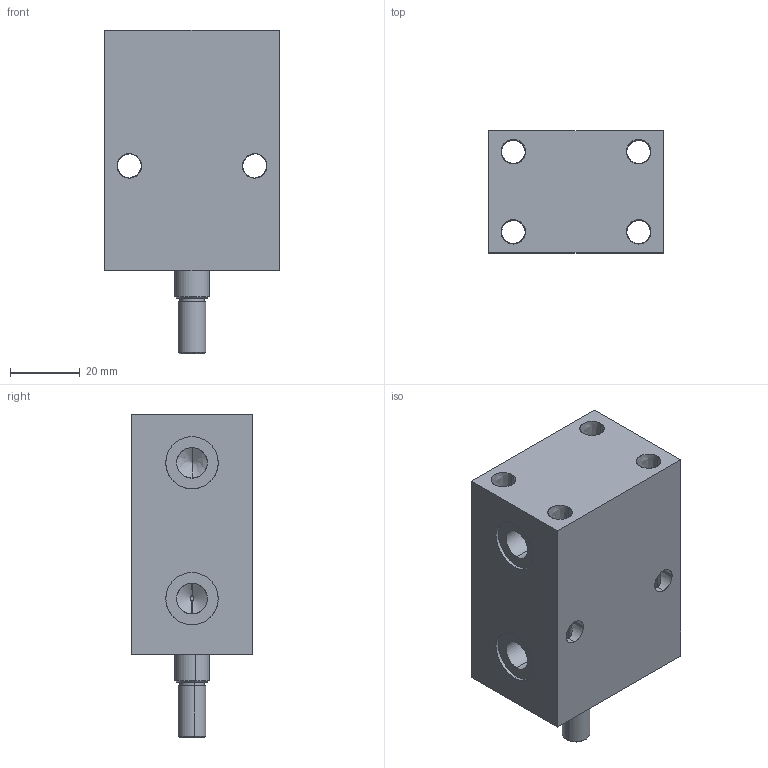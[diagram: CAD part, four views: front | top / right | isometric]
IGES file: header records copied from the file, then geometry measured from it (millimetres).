
Start section: SolidWorks IGES file using analytic representation for surfaces
Global section: file name: D:\karuppas\Clasp\3D model\Block cylinder B01C-Male thread - Copy\B01C-002M\Block cylinder B01C-0025M.IGS; native system: SolidWorks 2017; preprocessor: SolidWorks 2017; author: pc; date: 220709.232327; units: millimetre
Bounding box: 50 x 35 x 93 mm (x, y, z)
Surface area: 26512.3 mm2 (no closed solid volume)
Topology: 0 solids, 0 shells, 370 faces, 5764 edges, 5762 vertices
Faces by surface type: bspline 316, revolution 54
